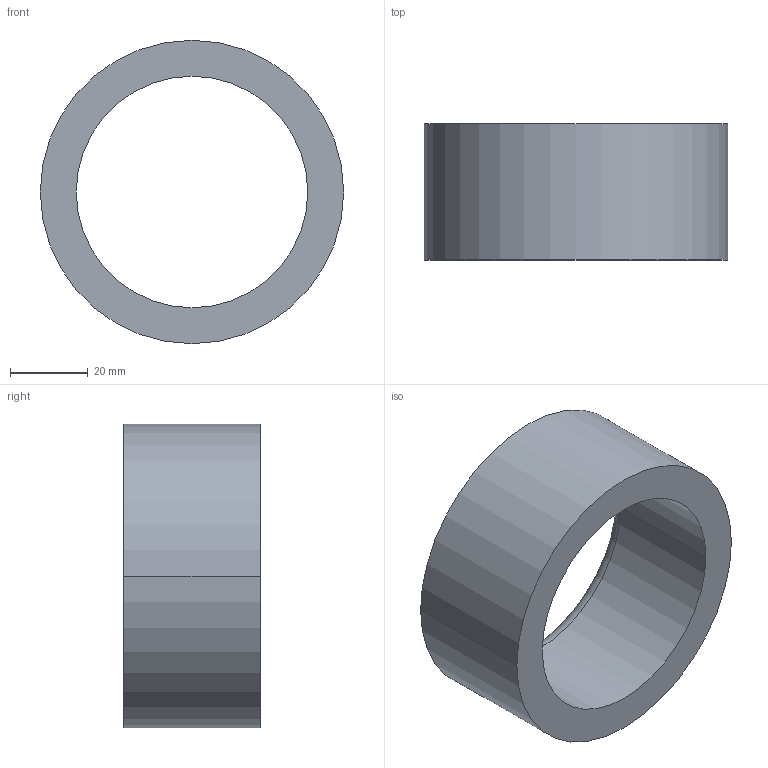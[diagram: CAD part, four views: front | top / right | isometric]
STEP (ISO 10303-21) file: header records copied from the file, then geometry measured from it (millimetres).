
FILE_DESCRIPTION (( 'STEP AP203' ), '1' );
FILE_NAME ('30800.WPP78M59.5.step', '2019-01-23T23:03:39', ( '' ), ( '' ), 'SwSTEP 2.0', 'SolidWorks 2017', '' );
FILE_SCHEMA (( 'CONFIG_CONTROL_DESIGN' ));
Length unit declared in the file: millimetre
Products named in the file (1): 30800.WPP78M59.5
Bounding box: 78 x 35 x 78 mm (x, y, z)
Volume: 69263.9 mm3; surface area: 18800.8 mm2
Topology: 1 solids, 1 shells, 8 faces, 16 edges, 10 vertices
Faces by surface type: cylinder 4, torus 2, plane 2
Entity records: 297 total; most frequent: DIRECTION 46, CARTESIAN_POINT 35, ORIENTED_EDGE 32, AXIS2_PLACEMENT_3D 21, EDGE_CURVE 16, CIRCLE 12, EDGE_LOOP 10, VERTEX_POINT 10
